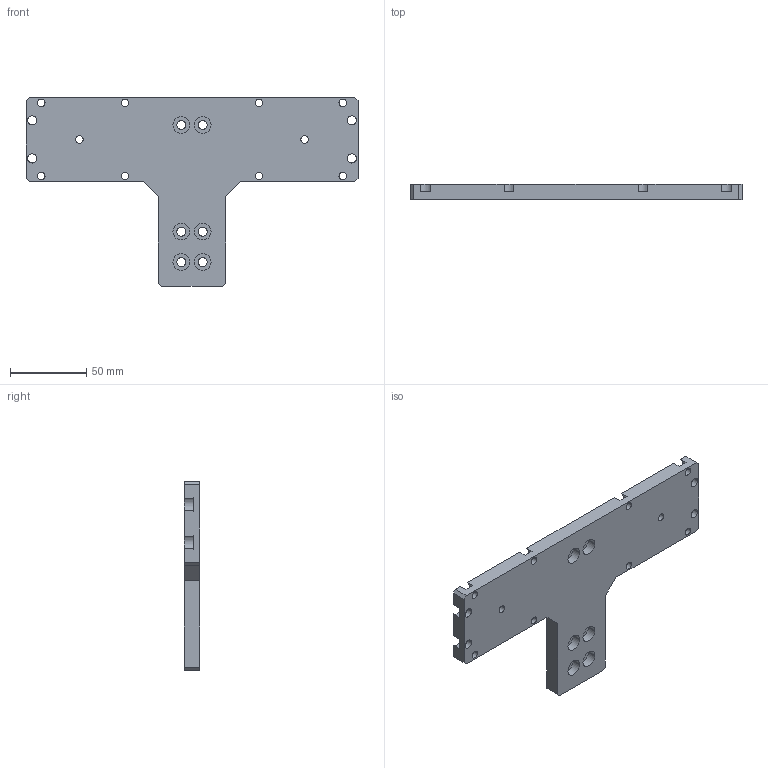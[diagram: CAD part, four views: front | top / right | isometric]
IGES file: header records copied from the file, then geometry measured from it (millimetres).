
Start section:  PTC IGES file: k46-k60m-st.igs
Global section: file name: k46-k60m-st.igs; native system: Pro/ENGINEER by Parametric Technology Corporation; preprocessor: 2008230; author: Owner; organization: Unknown; date: 20121211.145509; units: millimetre
Bounding box: 218 x 10 x 124 mm (x, y, z)
Surface area: 40107.5 mm2 (no closed solid volume)
Topology: 0 solids, 0 shells, 106 faces, 576 edges, 576 vertices
Faces by surface type: revolution 68, bspline 38
